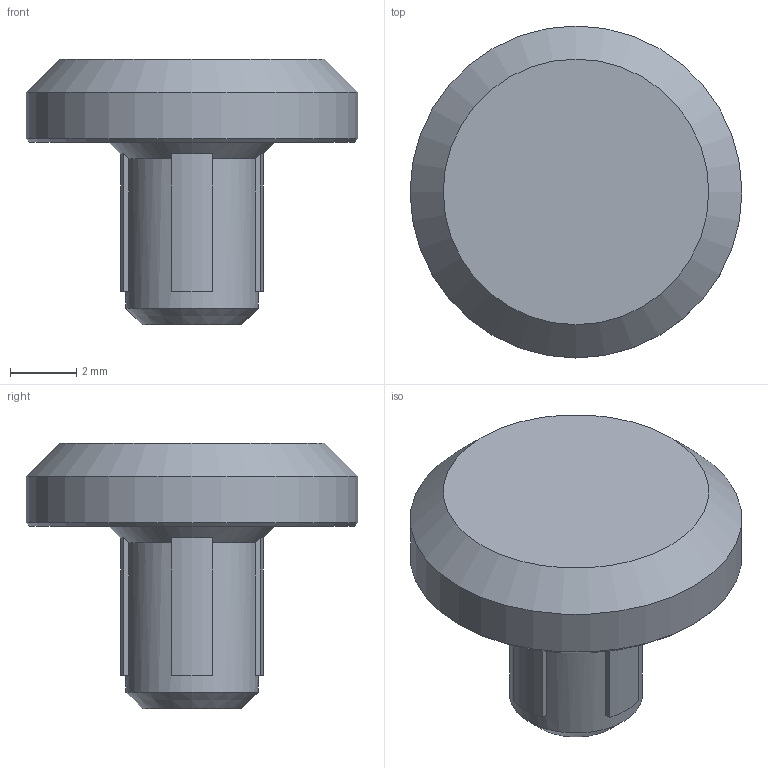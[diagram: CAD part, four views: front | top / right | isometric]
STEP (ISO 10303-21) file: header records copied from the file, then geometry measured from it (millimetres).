
FILE_DESCRIPTION(('STEP AP214'),'1');
FILE_NAME('PPS.1406.07.stp','2017-07-27T10:36:13',(' '),(' '),'Spatial InterOp 3D',' ',' ');
FILE_SCHEMA(('automotive_design'));
Length unit declared in the file: millimetre
Products named in the file (1): PPS.1406.07
Bounding box: 10 x 10 x 8 mm (x, y, z)
Volume: 254 mm3; surface area: 281.3 mm2
Topology: 1 solids, 1 shells, 25 faces, 64 edges, 42 vertices
Faces by surface type: plane 15, cylinder 6, cone 4
Full cylindrical faces by diameter (mm): 4 x1, 10 x1
Entity records: 932 total; most frequent: CARTESIAN_POINT 144, DIRECTION 122, ORIENTED_EDGE 110, EDGE_CURVE 55, AXIS2_PLACEMENT_3D 49, VERTEX_POINT 39, EDGE_LOOP 32, FACE_OUTER_BOUND 27
